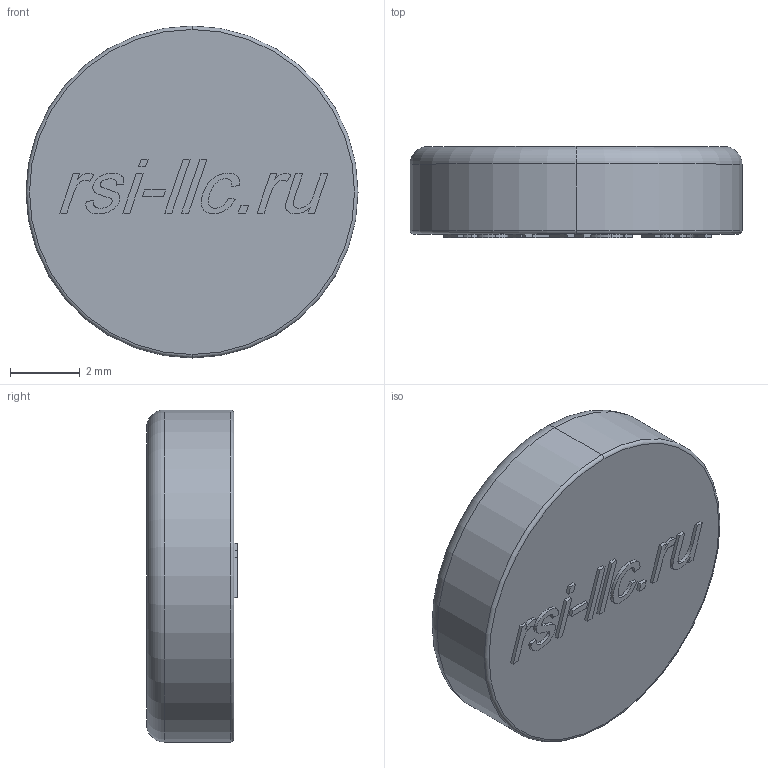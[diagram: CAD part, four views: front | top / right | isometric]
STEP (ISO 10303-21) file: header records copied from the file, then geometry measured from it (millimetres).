
FILE_DESCRIPTION (( 'STEP AP214' ), '1' );
FILE_NAME ('CAP-TRH-20.STEP', '2020-10-13T06:35:34', ( '' ), ( '' ), 'SwSTEP 2.0', 'SolidWorks 2018', '' );
FILE_SCHEMA (( 'AUTOMOTIVE_DESIGN' ));
Length unit declared in the file: millimetre
Products named in the file (1): CAP-TRH-20
Bounding box: 9.5 x 2.6 x 9.5 mm (x, y, z)
Volume: 109.6 mm3; surface area: 247.8 mm2
Topology: 1 solids, 1 shells, 105 faces, 269 edges, 178 vertices
Faces by surface type: plane 65, bspline 32, torus 4, cylinder 4
Entity records: 6076 total; most frequent: CARTESIAN_POINT 2537, ORIENTED_EDGE 538, DIRECTION 369, EDGE_CURVE 269, VECTOR 189, LINE 189, VERTEX_POINT 178, EDGE_LOOP 117
